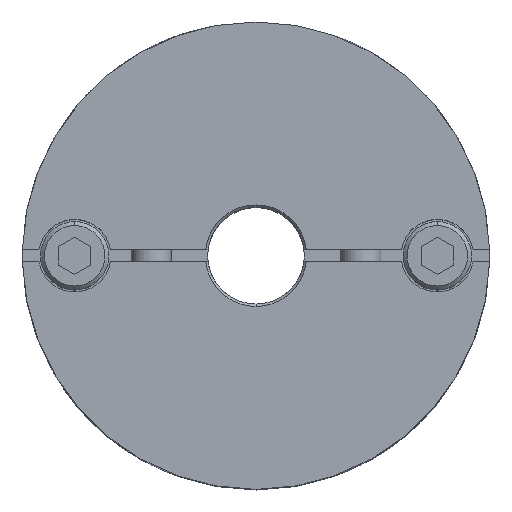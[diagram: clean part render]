
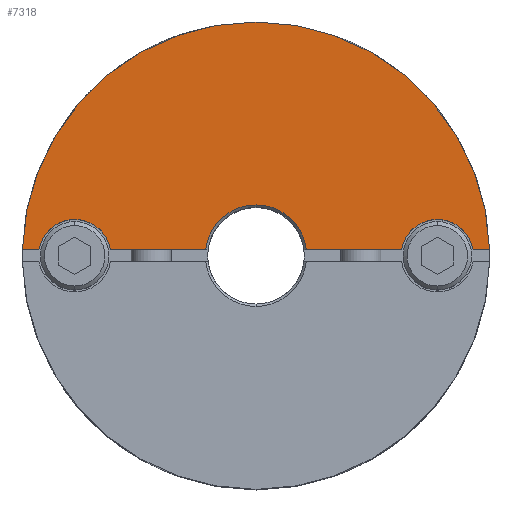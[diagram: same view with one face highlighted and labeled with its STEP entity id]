
A CAD part, top view. The second image highlights one B-rep face of the part: STEP entity #7318.
In plain terms, the highlighted planar face has unit normal (0, 0, 1).
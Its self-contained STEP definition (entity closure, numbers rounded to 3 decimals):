
#605=CARTESIAN_POINT('',(0.,29.,22.4));
#606=VERTEX_POINT('',#605);
#690=CARTESIAN_POINT('',(-28.99,0.75,22.4));
#691=VERTEX_POINT('',#690);
#698=CARTESIAN_POINT('',(0.0,0.,22.4));
#699=DIRECTION('',(0.0,0.0,-1.0));
#700=DIRECTION('',(0.0,1.0,0.0));
#701=AXIS2_PLACEMENT_3D('',#698,#699,#700);
#702=CIRCLE('',#701,29.0);
#703=EDGE_CURVE('',#691,#606,#702,.T.);
#1021=CARTESIAN_POINT('',(0.,6.3,22.4));
#1022=VERTEX_POINT('',#1021);
#1029=CARTESIAN_POINT('',(-6.255,0.75,22.4));
#1030=VERTEX_POINT('',#1029);
#1031=CARTESIAN_POINT('',(0.0,0.,22.4));
#1032=DIRECTION('',(0.0,0.0,1.0));
#1033=DIRECTION('',(0.0,-1.0,0.0));
#1034=AXIS2_PLACEMENT_3D('',#1031,#1032,#1033);
#1035=CIRCLE('',#1034,6.3);
#1036=EDGE_CURVE('',#1022,#1030,#1035,.T.);
#1099=CARTESIAN_POINT('',(-22.5,4.5,22.4));
#1100=VERTEX_POINT('',#1099);
#1109=CARTESIAN_POINT('',(-26.937,0.75,22.4));
#1110=VERTEX_POINT('',#1109);
#1111=CARTESIAN_POINT('',(-22.5,0.,22.4));
#1112=DIRECTION('',(0.0,0.0,-1.0));
#1113=DIRECTION('',(0.0,1.0,0.0));
#1114=AXIS2_PLACEMENT_3D('',#1111,#1112,#1113);
#1115=CIRCLE('',#1114,4.5);
#1116=EDGE_CURVE('',#1110,#1100,#1115,.T.);
#1183=CARTESIAN_POINT('',(22.5,4.5,22.4));
#1184=VERTEX_POINT('',#1183);
#1193=CARTESIAN_POINT('',(18.063,0.75,22.4));
#1194=VERTEX_POINT('',#1193);
#1195=CARTESIAN_POINT('',(22.5,0.,22.4));
#1196=DIRECTION('',(0.0,0.0,-1.0));
#1197=DIRECTION('',(0.0,1.0,0.0));
#1198=AXIS2_PLACEMENT_3D('',#1195,#1196,#1197);
#1199=CIRCLE('',#1198,4.5);
#1200=EDGE_CURVE('',#1194,#1184,#1199,.T.);
#6994=CARTESIAN_POINT('',(26.937,0.75,22.4));
#6995=VERTEX_POINT('',#6994);
#7002=CARTESIAN_POINT('',(22.5,0.,22.4));
#7003=DIRECTION('',(0.0,0.0,-1.0));
#7004=DIRECTION('',(0.0,1.0,0.0));
#7005=AXIS2_PLACEMENT_3D('',#7002,#7003,#7004);
#7006=CIRCLE('',#7005,4.5);
#7007=EDGE_CURVE('',#1184,#6995,#7006,.T.);
#7060=CARTESIAN_POINT('',(-18.063,0.75,22.4));
#7061=VERTEX_POINT('',#7060);
#7068=CARTESIAN_POINT('',(-22.5,0.,22.4));
#7069=DIRECTION('',(0.0,0.0,-1.0));
#7070=DIRECTION('',(0.0,1.0,0.0));
#7071=AXIS2_PLACEMENT_3D('',#7068,#7069,#7070);
#7072=CIRCLE('',#7071,4.5);
#7073=EDGE_CURVE('',#1100,#7061,#7072,.T.);
#7092=CARTESIAN_POINT('',(28.99,0.75,22.4));
#7093=VERTEX_POINT('',#7092);
#7100=CARTESIAN_POINT('',(26.937,0.75,22.4));
#7101=DIRECTION('',(1.0,0.0,0.0));
#7102=VECTOR('',#7101,2.053);
#7103=LINE('',#7100,#7102);
#7104=EDGE_CURVE('',#6995,#7093,#7103,.T.);
#7115=CARTESIAN_POINT('',(6.255,0.75,22.4));
#7116=VERTEX_POINT('',#7115);
#7117=CARTESIAN_POINT('',(6.255,0.75,22.4));
#7118=DIRECTION('',(1.0,0.0,0.0));
#7119=VECTOR('',#7118,11.808);
#7120=LINE('',#7117,#7119);
#7121=EDGE_CURVE('',#7116,#1194,#7120,.T.);
#7277=CARTESIAN_POINT('',(0.,2.636,22.4));
#7278=DIRECTION('',(0.0,0.0,1.0));
#7279=DIRECTION('',(0.0,1.0,0.0));
#7280=AXIS2_PLACEMENT_3D('',#7277,#7278,#7279);
#7281=PLANE('',#7280);
#7282=ORIENTED_EDGE('',*,*,#1200,.T.);
#7283=ORIENTED_EDGE('',*,*,#7007,.T.);
#7284=ORIENTED_EDGE('',*,*,#7104,.T.);
#7285=CARTESIAN_POINT('',(0.0,0.,22.4));
#7286=DIRECTION('',(0.0,0.0,-1.0));
#7287=DIRECTION('',(0.0,1.0,0.0));
#7288=AXIS2_PLACEMENT_3D('',#7285,#7286,#7287);
#7289=CIRCLE('',#7288,29.0);
#7290=EDGE_CURVE('',#606,#7093,#7289,.T.);
#7291=ORIENTED_EDGE('',*,*,#7290,.F.);
#7292=ORIENTED_EDGE('',*,*,#703,.F.);
#7293=CARTESIAN_POINT('',(-28.99,0.75,22.4));
#7294=DIRECTION('',(1.0,0.0,0.0));
#7295=VECTOR('',#7294,2.053);
#7296=LINE('',#7293,#7295);
#7297=EDGE_CURVE('',#691,#1110,#7296,.T.);
#7298=ORIENTED_EDGE('',*,*,#7297,.T.);
#7299=ORIENTED_EDGE('',*,*,#1116,.T.);
#7300=ORIENTED_EDGE('',*,*,#7073,.T.);
#7301=CARTESIAN_POINT('',(-18.063,0.75,22.4));
#7302=DIRECTION('',(1.0,0.0,0.0));
#7303=VECTOR('',#7302,11.808);
#7304=LINE('',#7301,#7303);
#7305=EDGE_CURVE('',#7061,#1030,#7304,.T.);
#7306=ORIENTED_EDGE('',*,*,#7305,.T.);
#7307=ORIENTED_EDGE('',*,*,#1036,.F.);
#7308=CARTESIAN_POINT('',(0.0,0.,22.4));
#7309=DIRECTION('',(0.0,0.0,1.0));
#7310=DIRECTION('',(0.0,-1.0,0.0));
#7311=AXIS2_PLACEMENT_3D('',#7308,#7309,#7310);
#7312=CIRCLE('',#7311,6.3);
#7313=EDGE_CURVE('',#7116,#1022,#7312,.T.);
#7314=ORIENTED_EDGE('',*,*,#7313,.F.);
#7315=ORIENTED_EDGE('',*,*,#7121,.T.);
#7316=EDGE_LOOP('',(#7282,#7283,#7284,#7291,#7292,#7298,#7299,#7300,#7306,#7307,#7314,#7315));
#7317=FACE_OUTER_BOUND('',#7316,.T.);
#7318=ADVANCED_FACE('',(#7317),#7281,.T.);
